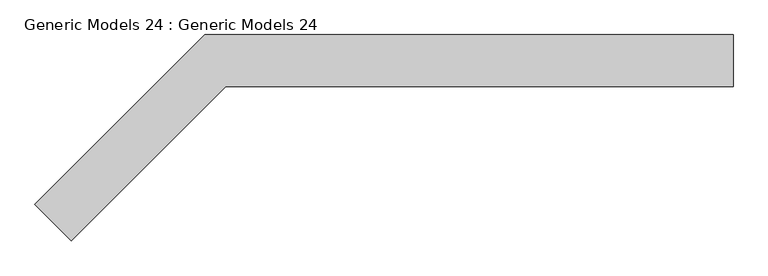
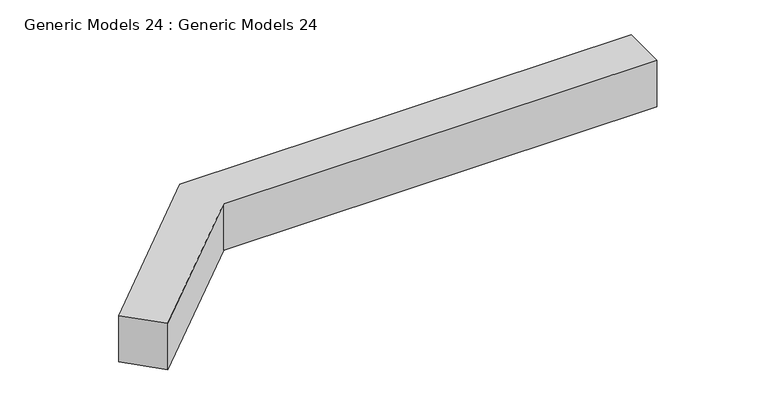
"""IFC4 building model written with IfcOpenShell, lengths in millimetres: proxy geometry, Generic Models 24 : Generic Models 24."""

from ifc_helpers import new_model, si_unit, frame, origin, place, context, project, spatial, polyline, outline, extrude, source, transform, mapped, element, save


def generic_models_24_generic_models_24_3cd4313f(model_context):
    return source(origin(), model_context, "Body", "SweptSolid", [
        extrude(outline(polyline([(1270.0, 11747.5), (1270.0, 11633.2), (148.8530307, 11633.2), (-192.7245074, 11291.6219462), (-273.5468125, 11372.4442513), (101.50837, 11747.5), (1270.0, 11747.5)])), frame((0.0, 0.0, 3251.2), z_axis=(0.0, 0.0, 1.0), x_axis=(1.0, 0.0, 0.0)), (0.0, 0.0, 1.0), 127.0),
    ])


if __name__ == "__main__":
    model = new_model("IFC4")
    model_context = context("Model", 3, world=origin())
    ifc_project = project(units=[si_unit("LENGTHUNIT", "METRE", prefix="MILLI")], contexts=[model_context])
    site = spatial("IfcSite", under=ifc_project)
    building = spatial("IfcBuilding", under=site)
    placement = place(None, origin())
    generic_models_24_generic_models_24_shape = generic_models_24_generic_models_24_3cd4313f(model_context)
    element("IfcBuildingElementProxy", 1, Name="Generic Models 24 : Generic Models 24", ObjectType="Generic Models 24 : Generic Models 24", at=placement, inside=building, context=model_context, shape_type="MappedRepresentation", body=[
        mapped(generic_models_24_generic_models_24_shape, transform((0.0, 0.0, 0.0), x_axis=(1.0, 0.0, 0.0), y_axis=(0.0, 1.0, 0.0), z_axis=(0.0, 0.0, 1.0))),
    ])
    save(model, "model.ifc")
